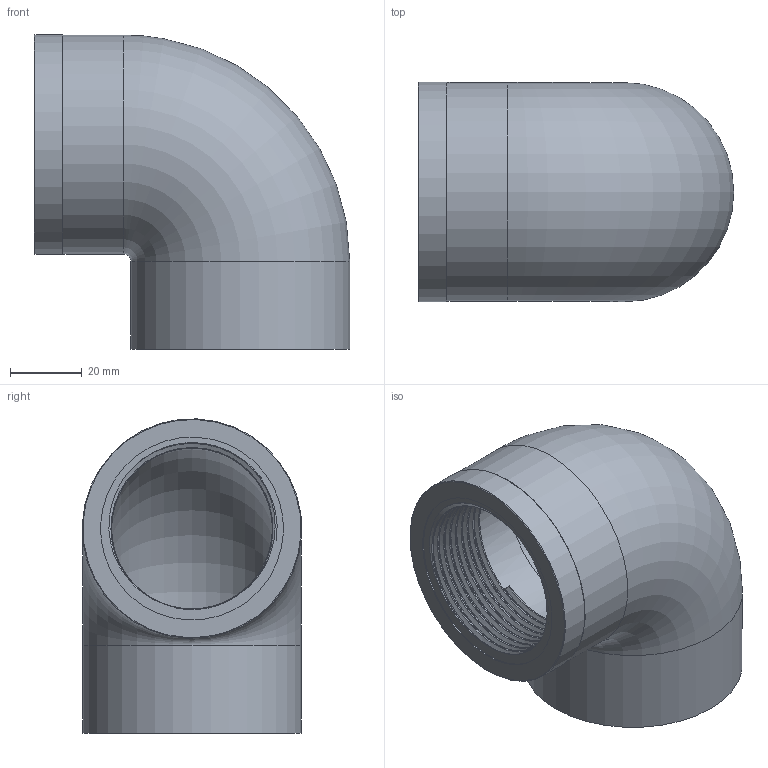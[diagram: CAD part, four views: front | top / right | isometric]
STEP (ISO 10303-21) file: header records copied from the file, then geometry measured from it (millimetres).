
FILE_DESCRIPTION(/* description */ (''),/* implementation_level */ '2;1');
FILE_NAME(/* name */ 'C:\Users\POLYPIPE\Desktop\DATASET INVENTOR\LIBRERIA EFFAST\RACCORDI 3DxWEB\RGR\3D_RGRGOR\3D_RGRGOR050F.stp',/* time_stamp */ '2018-01-19T17:47:02+01:00',/* author */ ('POLYPIPE'),/* organization */ (''),/* preprocessor_version */ 'ST-DEVELOPER v16.1',/* originating_system */ 'Autodesk Inventor 2016',/* authorisation */ '');
FILE_SCHEMA (('CONFIG_CONTROL_DESIGN'));
Length unit declared in the file: centimetre
Products named in the file (1): 3D_RGRGOR050F
Bounding box: 87.9 x 61.13 x 87.56 mm (x, y, z)
Volume: 113073 mm3; surface area: 39207.2 mm2
Topology: 1 solids, 1 shells, 21 faces, 41 edges, 26 vertices
Faces by surface type: plane 7, cylinder 6, bspline 5, torus 3
Full cylindrical faces by diameter (mm): 44.845 x1, 50 x1, 51 x1, 61 x2, 61.2 x1
Entity records: 3838 total; most frequent: CARTESIAN_POINT 3404, DIRECTION 71, ORIENTED_EDGE 62, EDGE_LOOP 36, AXIS2_PLACEMENT_3D 34, EDGE_CURVE 31, VERTEX_POINT 25, STYLED_ITEM 22
